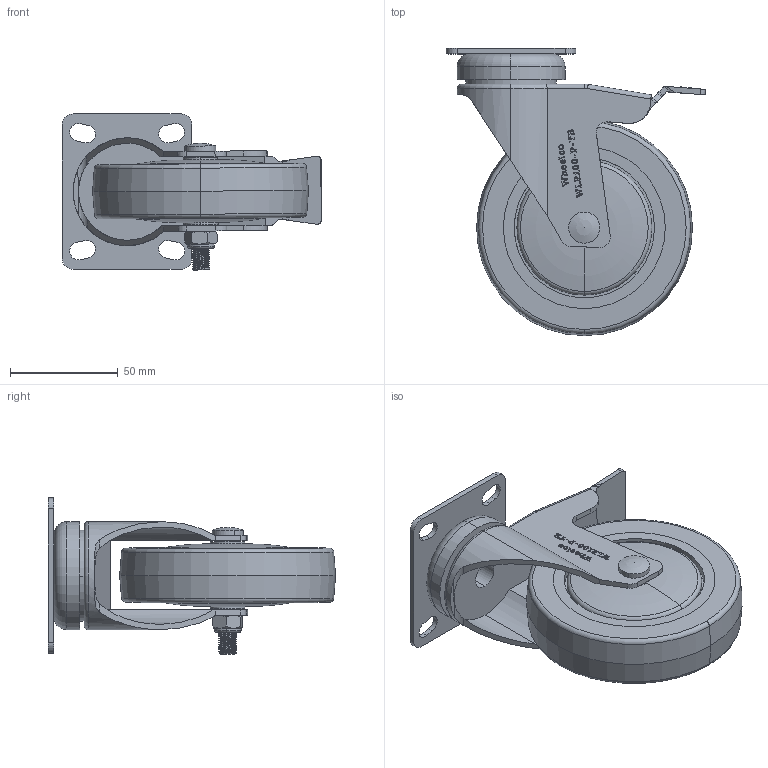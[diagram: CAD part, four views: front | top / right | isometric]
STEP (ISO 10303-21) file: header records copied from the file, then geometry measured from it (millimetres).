
FILE_DESCRIPTION (( 'STEP AP214' ), '1' );
FILE_NAME ('WLR100-P-TB.step', '2024-01-15T01:47:31', ( '' ), ( '' ), 'SwSTEP 2.0', 'SolidWorks 2022', '' );
FILE_SCHEMA (( 'AUTOMOTIVE_DESIGN' ));
Length unit declared in the file: millimetre
Products named in the file (6): WLR100; WLR100-P-TB; M8Nyloc-WHITE; 72x60; WC-M8x55
Assembly tree (5 placements, depth 2):
  WLR100-P-TB
    WLR100-P-TB
    WC-M8x55
    M8Nyloc-WHITE
    WLR100
    72x60
Bounding box: 120.1 x 133 x 72.28 mm (x, y, z)
Volume: 263194 mm3; surface area: 64444.9 mm2
Topology: 5 solids, 5 shells, 596 faces, 1592 edges, 1047 vertices
Faces by surface type: plane 314, cylinder 125, bspline 115, torus 23, cone 18, sphere 1
Entity records: 26967 total; most frequent: CARTESIAN_POINT 12410, ORIENTED_EDGE 3178, DIRECTION 2463, EDGE_CURVE 1589, VERTEX_POINT 1045, VECTOR 1011, LINE 1011, AXIS2_PLACEMENT_3D 726
